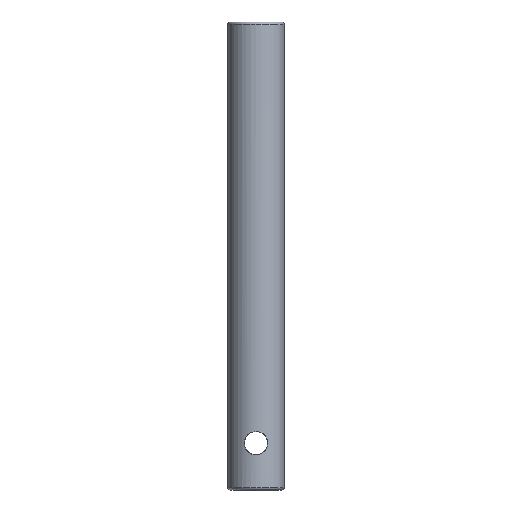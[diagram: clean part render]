
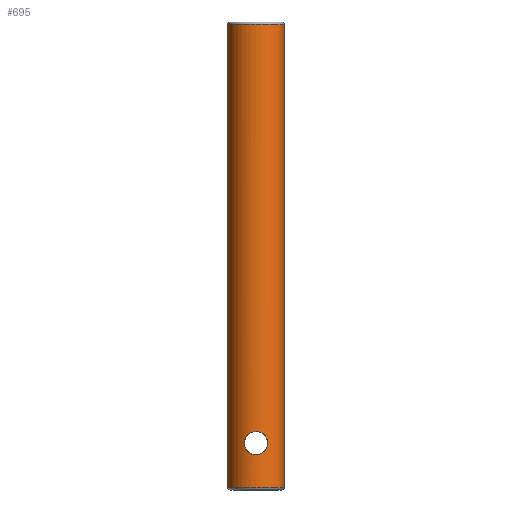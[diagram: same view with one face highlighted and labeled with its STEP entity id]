
A CAD part, front view. The second image highlights one B-rep face of the part: STEP entity #695.
In plain terms, the highlighted cylindrical face has radius 6 mm (diameter 12 mm), a partial arc.
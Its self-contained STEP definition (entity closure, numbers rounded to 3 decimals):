
#1 = AXIS2_PLACEMENT_3D ( 'NONE', #450, #188, #655 ) ;
#25 = VERTEX_POINT ( 'NONE', #178 ) ;
#26 = CARTESIAN_POINT ( 'NONE',  ( 0., 0., 100. ) ) ;
#30 = CARTESIAN_POINT ( 'NONE',  ( -1.26, -5.868, 12.165 ) ) ;
#32 = CARTESIAN_POINT ( 'NONE',  ( -1.986, -5.662, 11.527 ) ) ;
#36 = CARTESIAN_POINT ( 'NONE',  ( 1.997, -5.663, 8.462 ) ) ;
#38 = CARTESIAN_POINT ( 'NONE',  ( -0.656, -5.966, 12.418 ) ) ;
#39 = FACE_OUTER_BOUND ( 'NONE', #691, .T. ) ;
#42 = CARTESIAN_POINT ( 'NONE',  ( -2.5, -5.454, 9.671 ) ) ;
#58 = ORIENTED_EDGE ( 'NONE', *, *, #242, .F. ) ;
#78 = VERTEX_POINT ( 'NONE', #266 ) ;
#79 = FACE_BOUND ( 'NONE', #748, .T. ) ;
#86 = CARTESIAN_POINT ( 'NONE',  ( -2.245, -5.565, 11.113 ) ) ;
#90 = VERTEX_POINT ( 'NONE', #198 ) ;
#93 = CARTESIAN_POINT ( 'NONE',  ( 1.881, -5.699, 11.654 ) ) ;
#96 = CARTESIAN_POINT ( 'NONE',  ( -2.245, -5.565, 8.887 ) ) ;
#123 = CARTESIAN_POINT ( 'NONE',  ( 6., 0., 100. ) ) ;
#130 = ORIENTED_EDGE ( 'NONE', *, *, #212, .F. ) ;
#140 = CARTESIAN_POINT ( 'NONE',  ( -1.26, -5.868, 7.834 ) ) ;
#142 = CARTESIAN_POINT ( 'NONE',  ( 1.258, -5.868, 7.834 ) ) ;
#144 = CARTESIAN_POINT ( 'NONE',  ( -1.116, -5.897, 7.757 ) ) ;
#146 = ORIENTED_EDGE ( 'NONE', *, *, #431, .F. ) ;
#147 = CARTESIAN_POINT ( 'NONE',  ( -1.884, -5.698, 11.651 ) ) ;
#150 = CARTESIAN_POINT ( 'NONE',  ( 1.115, -5.897, 7.757 ) ) ;
#164 = VECTOR ( 'NONE', #794, 1000. ) ;
#178 = CARTESIAN_POINT ( 'NONE',  ( 0., -6., 12.5 ) ) ;
#181 = CARTESIAN_POINT ( 'NONE',  ( 0., 0., 0.5 ) ) ;
#188 = DIRECTION ( 'NONE',  ( 0., 0., -1. ) ) ;
#190 = B_SPLINE_CURVE_WITH_KNOTS ( 'NONE', 3,
 ( #599, #792, #202, #334, #802, #150, #142, #740, #682, #36, #544, #272, #670, #808, #610, #548, #550, #814, #337, #221, #612, #214, #93, #410, #811, #402, #286, #350, #804, #348 ),
 .UNSPECIFIED., .F., .F.,
 ( 4, 2, 2, 2, 2, 2, 2, 2, 2, 2, 2, 2, 2, 2, 4 ),
 ( 0., 0., 0.001, 0.001, 0.002, 0.003, 0.003, 0.004, 0.004, 0.005, 0.005, 0.006, 0.006, 0.007, 0.008 ),
 .UNSPECIFIED. ) ;
#198 = CARTESIAN_POINT ( 'NONE',  ( -6., 0., 99.5 ) ) ;
#202 = CARTESIAN_POINT ( 'NONE',  ( 0.331, -5.993, 7.517 ) ) ;
#206 = CARTESIAN_POINT ( 'NONE',  ( -1.654, -5.769, 11.881 ) ) ;
#208 = CARTESIAN_POINT ( 'NONE',  ( -1.528, -5.804, 8.015 ) ) ;
#212 = EDGE_CURVE ( 'NONE', #404, #25, #190, .T. ) ;
#214 = CARTESIAN_POINT ( 'NONE',  ( 1.986, -5.663, 11.527 ) ) ;
#217 = CARTESIAN_POINT ( 'NONE',  ( -1.883, -5.698, 8.348 ) ) ;
#221 = CARTESIAN_POINT ( 'NONE',  ( 2.243, -5.565, 11.115 ) ) ;
#229 = CARTESIAN_POINT ( 'NONE',  ( 6., 0., 99.5 ) ) ;
#237 = CIRCLE ( 'NONE', #528, 6. ) ;
#242 = EDGE_CURVE ( 'NONE', #25, #404, #821, .T. ) ;
#266 = CARTESIAN_POINT ( 'NONE',  ( 6., 0., 0.5 ) ) ;
#267 = CARTESIAN_POINT ( 'NONE',  ( -6., 0., 0.5 ) ) ;
#272 = CARTESIAN_POINT ( 'NONE',  ( 2.37, -5.513, 9.187 ) ) ;
#277 = CARTESIAN_POINT ( 'NONE',  ( -0.333, -5.993, 7.517 ) ) ;
#280 = CARTESIAN_POINT ( 'NONE',  ( -2.37, -5.512, 10.812 ) ) ;
#286 = CARTESIAN_POINT ( 'NONE',  ( 1.113, -5.898, 12.245 ) ) ;
#307 = CARTESIAN_POINT ( 'NONE',  ( 0., -6., 7.5 ) ) ;
#316 = DIRECTION ( 'NONE',  ( 0., 0., 1. ) ) ;
#334 = CARTESIAN_POINT ( 'NONE',  ( 0.654, -5.966, 7.581 ) ) ;
#337 = CARTESIAN_POINT ( 'NONE',  ( 2.371, -5.512, 10.811 ) ) ;
#339 = CARTESIAN_POINT ( 'NONE',  ( -2.433, -5.486, 9.339 ) ) ;
#342 = CARTESIAN_POINT ( 'NONE',  ( 0., -6., 7.5 ) ) ;
#343 = ORIENTED_EDGE ( 'NONE', *, *, #496, .T. ) ;
#344 = AXIS2_PLACEMENT_3D ( 'NONE', #26, #603, #757 ) ;
#348 = CARTESIAN_POINT ( 'NONE',  ( 0., -6., 12.5 ) ) ;
#350 = CARTESIAN_POINT ( 'NONE',  ( 0.662, -5.971, 12.433 ) ) ;
#371 = DIRECTION ( 'NONE',  ( 1., 0., 0. ) ) ;
#401 = EDGE_CURVE ( 'NONE', #587, #78, #237, .T. ) ;
#402 = CARTESIAN_POINT ( 'NONE',  ( 1.258, -5.868, 12.166 ) ) ;
#404 = VERTEX_POINT ( 'NONE', #307 ) ;
#407 = CARTESIAN_POINT ( 'NONE',  ( -0.332, -5.993, 12.483 ) ) ;
#410 = CARTESIAN_POINT ( 'NONE',  ( 1.653, -5.769, 11.883 ) ) ;
#412 = CARTESIAN_POINT ( 'NONE',  ( -0.812, -5.947, 12.37 ) ) ;
#431 = EDGE_CURVE ( 'NONE', #721, #78, #727, .T. ) ;
#443 = ORIENTED_EDGE ( 'NONE', *, *, #463, .T. ) ;
#450 = CARTESIAN_POINT ( 'NONE',  ( 0., 0., 99.5 ) ) ;
#463 = EDGE_CURVE ( 'NONE', #721, #90, #656, .T. ) ;
#476 = CARTESIAN_POINT ( 'NONE',  ( -2.166, -5.596, 11.258 ) ) ;
#485 = CARTESIAN_POINT ( 'NONE',  ( -1.115, -5.898, 12.244 ) ) ;
#487 = CARTESIAN_POINT ( 'NONE',  ( -1.986, -5.663, 8.473 ) ) ;
#496 = EDGE_CURVE ( 'NONE', #90, #587, #584, .T. ) ;
#528 = AXIS2_PLACEMENT_3D ( 'NONE', #181, #316, #371 ) ;
#538 = CARTESIAN_POINT ( 'NONE',  ( -1.654, -5.769, 8.118 ) ) ;
#540 = CARTESIAN_POINT ( 'NONE',  ( -2.418, -5.491, 10.656 ) ) ;
#544 = CARTESIAN_POINT ( 'NONE',  ( 2.182, -5.591, 8.737 ) ) ;
#548 = CARTESIAN_POINT ( 'NONE',  ( 2.5, -5.454, 10.164 ) ) ;
#550 = CARTESIAN_POINT ( 'NONE',  ( 2.483, -5.462, 10.331 ) ) ;
#577 = CYLINDRICAL_SURFACE ( 'NONE', #344, 6. ) ;
#584 = LINE ( 'NONE', #726, #164 ) ;
#587 = VERTEX_POINT ( 'NONE', #267 ) ;
#593 = DIRECTION ( 'NONE',  ( 0., 0., -1. ) ) ;
#599 = CARTESIAN_POINT ( 'NONE',  ( 0., -6., 7.5 ) ) ;
#603 = DIRECTION ( 'NONE',  ( 0., 0., -1. ) ) ;
#605 = CARTESIAN_POINT ( 'NONE',  ( -0.812, -5.947, 7.63 ) ) ;
#610 = CARTESIAN_POINT ( 'NONE',  ( 2.5, -5.454, 9.833 ) ) ;
#612 = CARTESIAN_POINT ( 'NONE',  ( 2.166, -5.596, 11.258 ) ) ;
#615 = CARTESIAN_POINT ( 'NONE',  ( -2.5, -5.454, 10.165 ) ) ;
#621 = CARTESIAN_POINT ( 'NONE',  ( -1.529, -5.804, 11.985 ) ) ;
#655 = DIRECTION ( 'NONE',  ( 1., 0., 0. ) ) ;
#656 = CIRCLE ( 'NONE', #1, 6. ) ;
#670 = CARTESIAN_POINT ( 'NONE',  ( 2.419, -5.491, 9.346 ) ) ;
#673 = CARTESIAN_POINT ( 'NONE',  ( -0.655, -5.966, 7.582 ) ) ;
#682 = CARTESIAN_POINT ( 'NONE',  ( 1.655, -5.768, 8.119 ) ) ;
#691 = EDGE_LOOP ( 'NONE', ( #146, #443, #343, #822 ) ) ;
#695 = ADVANCED_FACE ( 'NONE', ( #39, #79 ), #577, .T. ) ;
#706 = VECTOR ( 'NONE', #593, 1000. ) ;
#721 = VERTEX_POINT ( 'NONE', #229 ) ;
#726 = CARTESIAN_POINT ( 'NONE',  ( -6., 0., 100. ) ) ;
#727 = LINE ( 'NONE', #123, #706 ) ;
#728 = CARTESIAN_POINT ( 'NONE',  ( 0., -6., 12.5 ) ) ;
#732 = CARTESIAN_POINT ( 'NONE',  ( -0.165, -6., 12.5 ) ) ;
#740 = CARTESIAN_POINT ( 'NONE',  ( 1.529, -5.804, 8.015 ) ) ;
#743 = CARTESIAN_POINT ( 'NONE',  ( -2.483, -5.462, 10.333 ) ) ;
#747 = CARTESIAN_POINT ( 'NONE',  ( -0.167, -6., 7.5 ) ) ;
#748 = EDGE_LOOP ( 'NONE', ( #130, #58 ) ) ;
#754 = CARTESIAN_POINT ( 'NONE',  ( -2.166, -5.596, 8.742 ) ) ;
#757 = DIRECTION ( 'NONE',  ( -1., 0., 0. ) ) ;
#792 = CARTESIAN_POINT ( 'NONE',  ( 0.167, -6., 7.5 ) ) ;
#794 = DIRECTION ( 'NONE',  ( 0., 0., -1. ) ) ;
#802 = CARTESIAN_POINT ( 'NONE',  ( 0.813, -5.947, 7.63 ) ) ;
#804 = CARTESIAN_POINT ( 'NONE',  ( 0.329, -6., 12.5 ) ) ;
#808 = CARTESIAN_POINT ( 'NONE',  ( 2.484, -5.462, 9.67 ) ) ;
#811 = CARTESIAN_POINT ( 'NONE',  ( 1.528, -5.804, 11.985 ) ) ;
#814 = CARTESIAN_POINT ( 'NONE',  ( 2.419, -5.491, 10.654 ) ) ;
#821 = B_SPLINE_CURVE_WITH_KNOTS ( 'NONE', 3,
 ( #728, #732, #407, #38, #412, #485, #30, #621, #206, #147, #32, #476, #86, #280, #540, #743, #615, #42, #339, #96, #754, #487, #217, #538, #208, #140, #144, #605, #673, #277, #747, #342 ),
 .UNSPECIFIED., .F., .F.,
 ( 4, 2, 2, 2, 2, 2, 2, 2, 2, 2, 2, 2, 2, 2, 2, 4 ),
 ( 0.008, 0.008, 0.009, 0.009, 0.01, 0.01, 0.011, 0.011, 0.012, 0.013, 0.013, 0.014, 0.014, 0.015, 0.015, 0.016 ),
 .UNSPECIFIED. ) ;
#822 = ORIENTED_EDGE ( 'NONE', *, *, #401, .T. ) ;
